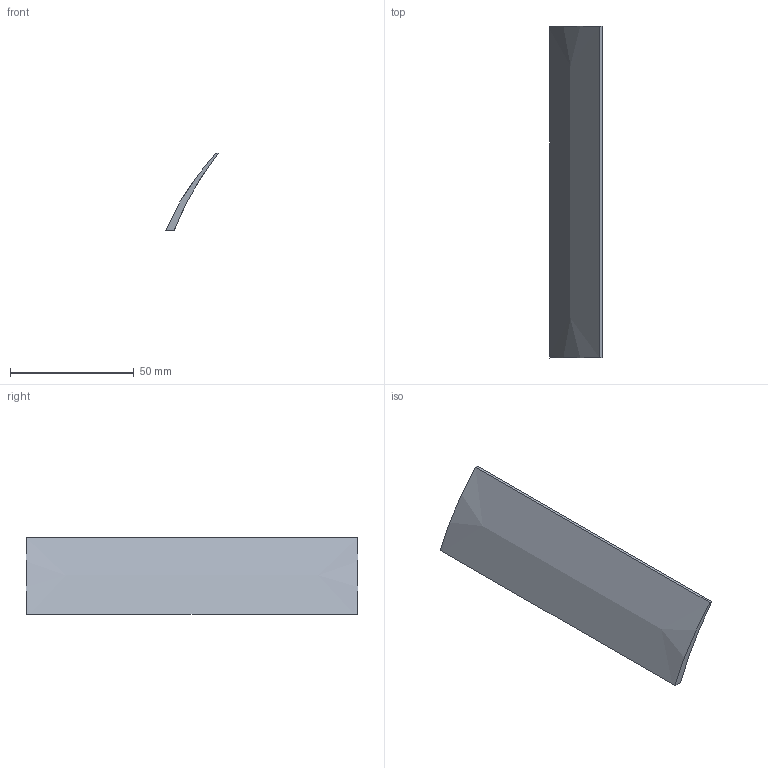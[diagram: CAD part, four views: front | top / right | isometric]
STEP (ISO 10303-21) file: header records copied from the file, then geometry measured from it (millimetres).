
FILE_DESCRIPTION(('Open CASCADE Model'),'2;1');
FILE_NAME('Open CASCADE Shape Model','2026-11-03T04:29:34',('Author'),( 'Open CASCADE'),'Open CASCADE STEP processor 7.8','Open CASCADE 7.8' ,'Unknown');
FILE_SCHEMA(('AUTOMOTIVE_DESIGN { 1 0 10303 214 1 1 1 1 }'));
Length unit declared in the file: millimetre
Products named in the file (1): Open CASCADE STEP translator 7.8 22
Bounding box: 21.25 x 134 x 31.16 mm (x, y, z)
Volume: 10084 mm3; surface area: 10530.9 mm2
Topology: 1 solids, 1 shells, 8 faces, 18 edges, 12 vertices
Faces by surface type: plane 4, bspline 2, cylinder 2
Entity records: 990 total; most frequent: CARTESIAN_POINT 679, B_SPLINE_CURVE_WITH_KNOTS 37, ORIENTED_EDGE 36, PCURVE 36, DEFINITIONAL_REPRESENTATION 36, DIRECTION 31, EDGE_CURVE 18, SURFACE_CURVE 18
